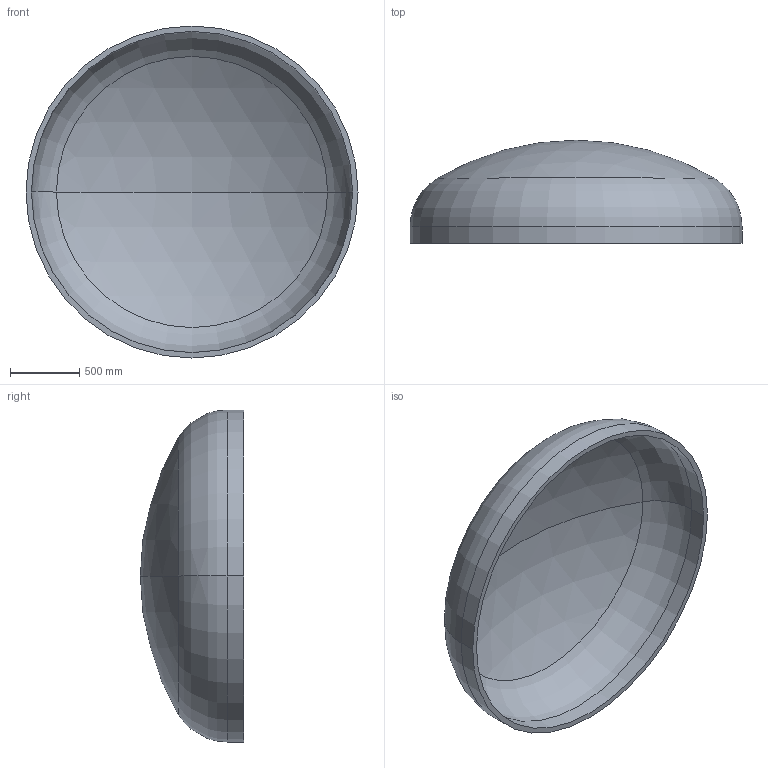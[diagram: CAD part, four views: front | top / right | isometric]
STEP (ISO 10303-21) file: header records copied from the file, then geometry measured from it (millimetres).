
FILE_DESCRIPTION (( 'STEP AP203' ), '1' );
FILE_NAME ('DIN 28013 Korbbogenform_-_Boden DIN 28013 - 2400 x 120 - I - s=39.step', '2016-07-01T15:20:26', ( '' ), ( '' ), 'SwSTEP 2.0', 'SolidWorks 2013', '' );
FILE_SCHEMA (( 'CONFIG_CONTROL_DESIGN' ));
Length unit declared in the file: millimetre
Products named in the file (1): DIN 28013 Korbbogenform_-_Boden DIN 28013 - 2400 x 120 - I - s=39
Bounding box: 2400 x 746.03 x 2400 mm (x, y, z)
Volume: 273935266.8 mm3; surface area: 14340418 mm2
Topology: 1 solids, 1 shells, 13 faces, 24 edges, 14 vertices
Faces by surface type: torus 4, cylinder 4, sphere 4, plane 1
Entity records: 407 total; most frequent: DIRECTION 72, CARTESIAN_POINT 52, ORIENTED_EDGE 48, AXIS2_PLACEMENT_3D 34, EDGE_CURVE 24, CIRCLE 20, VERTEX_POINT 14, EDGE_LOOP 14
